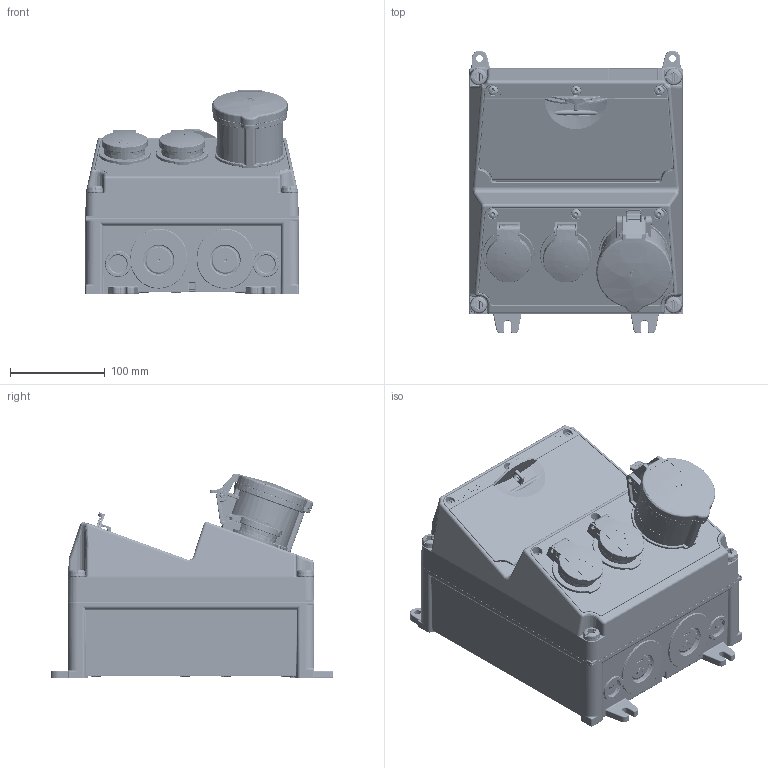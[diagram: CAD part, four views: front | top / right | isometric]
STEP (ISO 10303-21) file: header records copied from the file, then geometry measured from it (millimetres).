
FILE_DESCRIPTION((''),'2;1');
FILE_NAME('920063-1_ASM_1_ASM','2018-05-07T',('hoffmannf'),('MENNEKES'),'PRO/ENGINEER BY PARAMETRIC TECHNOLOGY CORPORATION, 2015440','PRO/ENGINEER BY PARAMETRIC TECHNOLOGY CORPORATION, 2015440','');
FILE_SCHEMA(('AUTOMOTIVE_DESIGN { 1 0 10303 214 1 1 1 1 }'));
Products named in the file (12): 2-4_SW_O_GRAU_1; MANIFOLD_SOLID_BREP_203513; MANIFOLD_SOLID_BREP_291876; MANIFOLD_SOLID_BREP_292213; MANIFOLD_SOLID_BREP_294692; FI_4POL_4TE_1_ASM; LS_1POL_1TE_1; MP_LEER_GRAU_1; MP_FEN10_44_OBEN_GRAU_1; AMAXX_CEE_32_5_44_ROT_1; AMAXX_SCHUKO_44_BLAU_1; 920063-1_ASM_1_ASM
Assembly tree (13 placements, depth 3):
  920063-1_ASM_1_ASM
    2-4_SW_O_GRAU_1
    FI_4POL_4TE_1_ASM
      MANIFOLD_SOLID_BREP_203513
      MANIFOLD_SOLID_BREP_291876
      MANIFOLD_SOLID_BREP_292213
      MANIFOLD_SOLID_BREP_294692
    LS_1POL_1TE_1  x2
    MP_LEER_GRAU_1
    MP_FEN10_44_OBEN_GRAU_1
    AMAXX_CEE_32_5_44_ROT_1
    AMAXX_SCHUKO_44_BLAU_1  x2
Bounding box: 225 x 298.2 x 215.76 mm (x, y, z)
Volume: 6176052.9 mm3; surface area: 758631.3 mm2
Topology: 12 solids, 12 shells, 10083 faces, 27654 edges, 17618 vertices
Faces by surface type: plane 5110, cylinder 2595, bspline 881, torus 787, cone 282, sphere 254, extrusion 174
Entity records: 419948 total; most frequent: CARTESIAN_POINT 120637, ORIENTED_EDGE 49624, DIRECTION 43556, EDGE_CURVE 24812, VERTEX_POINT 15852, AXIS2_PLACEMENT_3D 14677, PRESENTATION_STYLE_ASSIGNMENT 14463, VECTOR 14202
